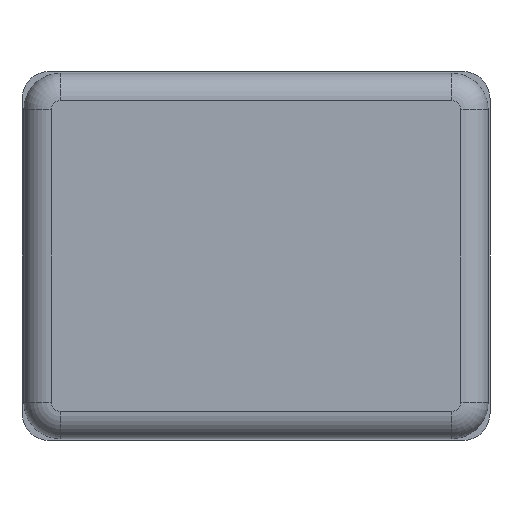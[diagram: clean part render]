
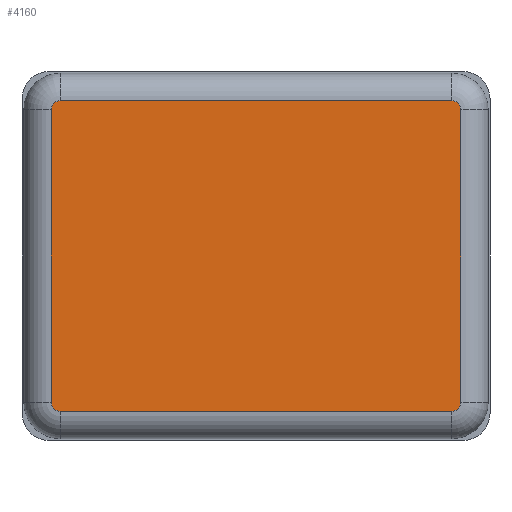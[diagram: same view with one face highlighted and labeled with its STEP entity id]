
A CAD part, front view. The second image highlights one B-rep face of the part: STEP entity #4160.
In plain terms, the highlighted planar face has unit normal (0, -1, 0).
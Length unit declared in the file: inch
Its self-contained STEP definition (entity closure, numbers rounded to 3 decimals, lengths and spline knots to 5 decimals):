
#5 = ORIENTED_EDGE ( 'NONE', *, *, #1335, .T. ) ;
#86 = EDGE_CURVE ( 'NONE', #2759, #2770, #256, .T. ) ;
#96 = CARTESIAN_POINT ( 'NONE',  ( -0.42126, -0.38189, -0.33465 ) ) ;
#105 = CIRCLE ( 'NONE', #3896, 0.01969 ) ;
#113 = VECTOR ( 'NONE', #3819, 39.37008 ) ;
#191 = ORIENTED_EDGE ( 'NONE', *, *, #2716, .T. ) ;
#221 = VERTEX_POINT ( 'NONE', #3208 ) ;
#239 = CIRCLE ( 'NONE', #3150, 0.01969 ) ;
#256 = LINE ( 'NONE', #870, #726 ) ;
#270 = ORIENTED_EDGE ( 'NONE', *, *, #2714, .T. ) ;
#297 = LINE ( 'NONE', #1272, #113 ) ;
#381 = CARTESIAN_POINT ( 'NONE',  ( 0.42126, -0.38189, -0.31496 ) ) ;
#468 = ORIENTED_EDGE ( 'NONE', *, *, #3694, .T. ) ;
#506 = CARTESIAN_POINT ( 'NONE',  ( -0.44094, -0.38189, 0.31496 ) ) ;
#544 = DIRECTION ( 'NONE',  ( 0., 0., 1. ) ) ;
#645 = EDGE_CURVE ( 'NONE', #1637, #936, #297, .T. ) ;
#697 = DIRECTION ( 'NONE',  ( 0., 0., -1. ) ) ;
#726 = VECTOR ( 'NONE', #2524, 39.37008 ) ;
#858 = DIRECTION ( 'NONE',  ( 0., -1., 0. ) ) ;
#864 = CARTESIAN_POINT ( 'NONE',  ( 0., -0.38189, 0. ) ) ;
#870 = CARTESIAN_POINT ( 'NONE',  ( 0.44094, -0.38189, 0.31496 ) ) ;
#885 = EDGE_CURVE ( 'NONE', #2530, #1946, #3605, .T. ) ;
#936 = VERTEX_POINT ( 'NONE', #3429 ) ;
#1021 = CIRCLE ( 'NONE', #3937, 0.01969 ) ;
#1139 = DIRECTION ( 'NONE',  ( 0., 0., 1. ) ) ;
#1142 = EDGE_LOOP ( 'NONE', ( #270, #191, #3969, #3786, #3579, #468, #2602, #5 ) ) ;
#1221 = DIRECTION ( 'NONE',  ( -1., 0., 0. ) ) ;
#1272 = CARTESIAN_POINT ( 'NONE',  ( 0.42126, -0.38189, -0.33465 ) ) ;
#1315 = CARTESIAN_POINT ( 'NONE',  ( -0.44094, -0.38189, -0.31496 ) ) ;
#1330 = DIRECTION ( 'NONE',  ( 0., 0., 1. ) ) ;
#1335 = EDGE_CURVE ( 'NONE', #2770, #3599, #1021, .T. ) ;
#1467 = DIRECTION ( 'NONE',  ( 0., 1., 0. ) ) ;
#1637 = VERTEX_POINT ( 'NONE', #96 ) ;
#1654 = CARTESIAN_POINT ( 'NONE',  ( -0.42126, -0.38189, -0.31496 ) ) ;
#1925 = CARTESIAN_POINT ( 'NONE',  ( 0.44094, -0.38189, 0.31496 ) ) ;
#1946 = VERTEX_POINT ( 'NONE', #1315 ) ;
#2117 = AXIS2_PLACEMENT_3D ( 'NONE', #381, #2984, #2965 ) ;
#2374 = DIRECTION ( 'NONE',  ( 0., -1., 0. ) ) ;
#2449 = CARTESIAN_POINT ( 'NONE',  ( 0.42126, -0.38189, 0.31496 ) ) ;
#2456 = EDGE_CURVE ( 'NONE', #1946, #1637, #105, .T. ) ;
#2524 = DIRECTION ( 'NONE',  ( 0., 0., 1. ) ) ;
#2530 = VERTEX_POINT ( 'NONE', #506 ) ;
#2551 = DIRECTION ( 'NONE',  ( 0., -1., 0. ) ) ;
#2602 = ORIENTED_EDGE ( 'NONE', *, *, #86, .T. ) ;
#2714 = EDGE_CURVE ( 'NONE', #3599, #221, #2855, .T. ) ;
#2716 = EDGE_CURVE ( 'NONE', #221, #2530, #239, .T. ) ;
#2759 = VERTEX_POINT ( 'NONE', #3810 ) ;
#2770 = VERTEX_POINT ( 'NONE', #1925 ) ;
#2855 = LINE ( 'NONE', #4153, #3833 ) ;
#2900 = CARTESIAN_POINT ( 'NONE',  ( -0.42126, -0.38189, 0.31496 ) ) ;
#2965 = DIRECTION ( 'NONE',  ( 0., 0., 1. ) ) ;
#2984 = DIRECTION ( 'NONE',  ( 0., -1., 0. ) ) ;
#3028 = CARTESIAN_POINT ( 'NONE',  ( -0.44094, -0.38189, -0.31496 ) ) ;
#3119 = AXIS2_PLACEMENT_3D ( 'NONE', #864, #1467, #1139 ) ;
#3150 = AXIS2_PLACEMENT_3D ( 'NONE', #2900, #2551, #3470 ) ;
#3200 = CIRCLE ( 'NONE', #2117, 0.01969 ) ;
#3208 = CARTESIAN_POINT ( 'NONE',  ( -0.42126, -0.38189, 0.33465 ) ) ;
#3429 = CARTESIAN_POINT ( 'NONE',  ( 0.42126, -0.38189, -0.33465 ) ) ;
#3470 = DIRECTION ( 'NONE',  ( 0., 0., 1. ) ) ;
#3548 = VECTOR ( 'NONE', #697, 39.37008 ) ;
#3579 = ORIENTED_EDGE ( 'NONE', *, *, #645, .T. ) ;
#3599 = VERTEX_POINT ( 'NONE', #4100 ) ;
#3605 = LINE ( 'NONE', #3028, #3548 ) ;
#3694 = EDGE_CURVE ( 'NONE', #936, #2759, #3200, .T. ) ;
#3734 = PLANE ( 'NONE',  #3119 ) ;
#3786 = ORIENTED_EDGE ( 'NONE', *, *, #2456, .T. ) ;
#3797 = FACE_OUTER_BOUND ( 'NONE', #1142, .T. ) ;
#3810 = CARTESIAN_POINT ( 'NONE',  ( 0.44094, -0.38189, -0.31496 ) ) ;
#3819 = DIRECTION ( 'NONE',  ( 1., 0., 0. ) ) ;
#3833 = VECTOR ( 'NONE', #1221, 39.37008 ) ;
#3896 = AXIS2_PLACEMENT_3D ( 'NONE', #1654, #2374, #1330 ) ;
#3937 = AXIS2_PLACEMENT_3D ( 'NONE', #2449, #858, #544 ) ;
#3969 = ORIENTED_EDGE ( 'NONE', *, *, #885, .T. ) ;
#4100 = CARTESIAN_POINT ( 'NONE',  ( 0.42126, -0.38189, 0.33465 ) ) ;
#4153 = CARTESIAN_POINT ( 'NONE',  ( -0.42126, -0.38189, 0.33465 ) ) ;
#4160 = ADVANCED_FACE ( 'NONE', ( #3797 ), #3734, .F. ) ;
